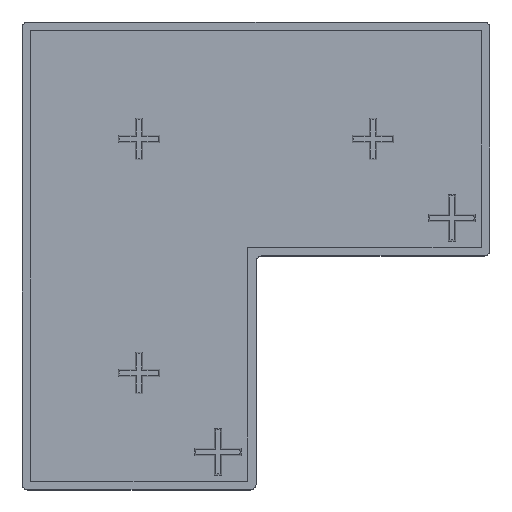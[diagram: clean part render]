
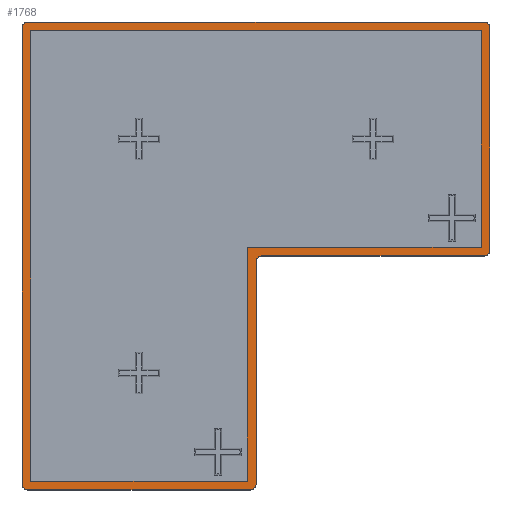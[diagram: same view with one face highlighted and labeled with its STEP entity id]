
A CAD part, top view. The second image highlights one B-rep face of the part: STEP entity #1768.
In plain terms, the highlighted planar face has unit normal (0, 0, 1).
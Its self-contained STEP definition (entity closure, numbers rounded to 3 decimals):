
#7 = VECTOR ( 'NONE', #2127, 1000. ) ;
#18 = LINE ( 'NONE', #3089, #3142 ) ;
#22 = CARTESIAN_POINT ( 'NONE',  ( -1.5, -38.5, 5. ) ) ;
#88 = VERTEX_POINT ( 'NONE', #2703 ) ;
#108 = VECTOR ( 'NONE', #283, 1000. ) ;
#112 = CARTESIAN_POINT ( 'NONE',  ( -40., -39., 5. ) ) ;
#158 = CARTESIAN_POINT ( 'NONE',  ( 40., 1., 5. ) ) ;
#195 = EDGE_LOOP ( 'NONE', ( #574, #2128, #451, #1150, #741, #2315 ) ) ;
#201 = LINE ( 'NONE', #300, #7 ) ;
#223 = CIRCLE ( 'NONE', #1837, 1. ) ;
#265 = LINE ( 'NONE', #750, #1383 ) ;
#283 = DIRECTION ( 'NONE',  ( 0., 1., 0. ) ) ;
#300 = CARTESIAN_POINT ( 'NONE',  ( -40., 40., 5. ) ) ;
#305 = VECTOR ( 'NONE', #3000, 1000. ) ;
#307 = EDGE_CURVE ( 'NONE', #2298, #88, #2701, .T. ) ;
#318 = CARTESIAN_POINT ( 'NONE',  ( 1., 0., 5. ) ) ;
#332 = VERTEX_POINT ( 'NONE', #371 ) ;
#334 = VECTOR ( 'NONE', #1570, 1000. ) ;
#352 = CARTESIAN_POINT ( 'NONE',  ( 40., 39., 5. ) ) ;
#371 = CARTESIAN_POINT ( 'NONE',  ( 0., -39., 5. ) ) ;
#379 = EDGE_CURVE ( 'NONE', #948, #2298, #450, .T. ) ;
#380 = LINE ( 'NONE', #3131, #334 ) ;
#385 = CARTESIAN_POINT ( 'NONE',  ( -1.5, 1.5, 5. ) ) ;
#410 = VERTEX_POINT ( 'NONE', #2237 ) ;
#413 = EDGE_CURVE ( 'NONE', #2990, #1325, #1750, .T. ) ;
#417 = DIRECTION ( 'NONE',  ( 0., 1., 0. ) ) ;
#450 = LINE ( 'NONE', #2256, #1922 ) ;
#451 = ORIENTED_EDGE ( 'NONE', *, *, #1501, .F. ) ;
#513 = VECTOR ( 'NONE', #1728, 1000. ) ;
#574 = ORIENTED_EDGE ( 'NONE', *, *, #2524, .F. ) ;
#578 = ORIENTED_EDGE ( 'NONE', *, *, #1237, .T. ) ;
#639 = DIRECTION ( 'NONE',  ( 0., 0., -1. ) ) ;
#703 = VECTOR ( 'NONE', #3193, 1000. ) ;
#712 = CIRCLE ( 'NONE', #3237, 1. ) ;
#741 = ORIENTED_EDGE ( 'NONE', *, *, #1215, .F. ) ;
#744 = ORIENTED_EDGE ( 'NONE', *, *, #1991, .T. ) ;
#750 = CARTESIAN_POINT ( 'NONE',  ( -38.5, -38.5, 5. ) ) ;
#771 = CARTESIAN_POINT ( 'NONE',  ( -39., -39., 5. ) ) ;
#804 = EDGE_CURVE ( 'NONE', #410, #1507, #2430, .T. ) ;
#817 = ORIENTED_EDGE ( 'NONE', *, *, #913, .F. ) ;
#831 = VERTEX_POINT ( 'NONE', #887 ) ;
#859 = DIRECTION ( 'NONE',  ( 0., 1., 0. ) ) ;
#875 = CARTESIAN_POINT ( 'NONE',  ( -40., 39., 5. ) ) ;
#886 = AXIS2_PLACEMENT_3D ( 'NONE', #2848, #1297, #3104 ) ;
#887 = CARTESIAN_POINT ( 'NONE',  ( -38.5, -38.5, 5. ) ) ;
#913 = EDGE_CURVE ( 'NONE', #3227, #332, #3260, .T. ) ;
#937 = DIRECTION ( 'NONE',  ( 0., 0., 1. ) ) ;
#948 = VERTEX_POINT ( 'NONE', #158 ) ;
#974 = CARTESIAN_POINT ( 'NONE',  ( -38.5, 38.5, 5. ) ) ;
#995 = VECTOR ( 'NONE', #1128, 1000. ) ;
#1011 = EDGE_CURVE ( 'NONE', #3270, #831, #3075, .T. ) ;
#1099 = ORIENTED_EDGE ( 'NONE', *, *, #379, .T. ) ;
#1106 = CARTESIAN_POINT ( 'NONE',  ( 0., -1., 5. ) ) ;
#1128 = DIRECTION ( 'NONE',  ( -1., 0., 0. ) ) ;
#1133 = LINE ( 'NONE', #22, #108 ) ;
#1134 = CARTESIAN_POINT ( 'NONE',  ( -40., -40., 5. ) ) ;
#1140 = ORIENTED_EDGE ( 'NONE', *, *, #3297, .T. ) ;
#1148 = EDGE_CURVE ( 'NONE', #1801, #1952, #712, .T. ) ;
#1150 = ORIENTED_EDGE ( 'NONE', *, *, #2280, .F. ) ;
#1180 = CARTESIAN_POINT ( 'NONE',  ( 0., -40., 5. ) ) ;
#1215 = EDGE_CURVE ( 'NONE', #1705, #2336, #380, .T. ) ;
#1237 = EDGE_CURVE ( 'NONE', #88, #1801, #201, .T. ) ;
#1251 = ORIENTED_EDGE ( 'NONE', *, *, #2244, .T. ) ;
#1276 = DIRECTION ( 'NONE',  ( 1., 0., 0. ) ) ;
#1292 = ORIENTED_EDGE ( 'NONE', *, *, #1148, .T. ) ;
#1296 = DIRECTION ( 'NONE',  ( 0., 0., 1. ) ) ;
#1297 = DIRECTION ( 'NONE',  ( 0., 0., 1. ) ) ;
#1300 = EDGE_CURVE ( 'NONE', #1952, #1439, #1891, .T. ) ;
#1307 = ORIENTED_EDGE ( 'NONE', *, *, #307, .T. ) ;
#1325 = VERTEX_POINT ( 'NONE', #318 ) ;
#1367 = CARTESIAN_POINT ( 'NONE',  ( -40., -40., 5. ) ) ;
#1380 = CIRCLE ( 'NONE', #1509, 1. ) ;
#1383 = VECTOR ( 'NONE', #1276, 1000. ) ;
#1387 = ORIENTED_EDGE ( 'NONE', *, *, #804, .T. ) ;
#1435 = AXIS2_PLACEMENT_3D ( 'NONE', #1462, #1604, #2510 ) ;
#1439 = VERTEX_POINT ( 'NONE', #112 ) ;
#1462 = CARTESIAN_POINT ( 'NONE',  ( -1., -39., 5. ) ) ;
#1466 = PLANE ( 'NONE',  #3118 ) ;
#1500 = ORIENTED_EDGE ( 'NONE', *, *, #413, .F. ) ;
#1501 = EDGE_CURVE ( 'NONE', #2816, #3270, #18, .T. ) ;
#1507 = VERTEX_POINT ( 'NONE', #2404 ) ;
#1509 = AXIS2_PLACEMENT_3D ( 'NONE', #2215, #639, #2477 ) ;
#1514 = CARTESIAN_POINT ( 'NONE',  ( 39., 0., 5. ) ) ;
#1528 = CIRCLE ( 'NONE', #1435, 1. ) ;
#1570 = DIRECTION ( 'NONE',  ( 1., 0., 0. ) ) ;
#1601 = DIRECTION ( 'NONE',  ( 0., -1., 0. ) ) ;
#1604 = DIRECTION ( 'NONE',  ( 0., 0., 1. ) ) ;
#1667 = VECTOR ( 'NONE', #1601, 1000. ) ;
#1671 = DIRECTION ( 'NONE',  ( 0., 0., 1. ) ) ;
#1681 = CIRCLE ( 'NONE', #886, 1. ) ;
#1696 = ORIENTED_EDGE ( 'NONE', *, *, #3032, .T. ) ;
#1705 = VERTEX_POINT ( 'NONE', #385 ) ;
#1728 = DIRECTION ( 'NONE',  ( 0., -1., 0. ) ) ;
#1749 = FACE_BOUND ( 'NONE', #195, .T. ) ;
#1750 = LINE ( 'NONE', #2755, #995 ) ;
#1768 = ADVANCED_FACE ( 'NONE', ( #1749, #2661 ), #1466, .F. ) ;
#1801 = VERTEX_POINT ( 'NONE', #2895 ) ;
#1837 = AXIS2_PLACEMENT_3D ( 'NONE', #771, #937, #2877 ) ;
#1844 = EDGE_LOOP ( 'NONE', ( #1500, #1696, #1099, #1307, #578, #1292, #1873, #744, #1387, #1251, #817, #1140 ) ) ;
#1873 = ORIENTED_EDGE ( 'NONE', *, *, #1300, .T. ) ;
#1891 = LINE ( 'NONE', #1367, #1667 ) ;
#1922 = VECTOR ( 'NONE', #417, 1000. ) ;
#1952 = VERTEX_POINT ( 'NONE', #875 ) ;
#1982 = VECTOR ( 'NONE', #859, 1000. ) ;
#1986 = LINE ( 'NONE', #2435, #1982 ) ;
#1991 = EDGE_CURVE ( 'NONE', #1439, #410, #223, .T. ) ;
#2100 = CARTESIAN_POINT ( 'NONE',  ( -1.5, -38.5, 5. ) ) ;
#2127 = DIRECTION ( 'NONE',  ( -1., 0., 0. ) ) ;
#2128 = ORIENTED_EDGE ( 'NONE', *, *, #1011, .F. ) ;
#2215 = CARTESIAN_POINT ( 'NONE',  ( 1., -1., 5. ) ) ;
#2237 = CARTESIAN_POINT ( 'NONE',  ( -39., -40., 5. ) ) ;
#2244 = EDGE_CURVE ( 'NONE', #1507, #332, #1528, .T. ) ;
#2251 = CARTESIAN_POINT ( 'NONE',  ( 38.5, 38.5, 5. ) ) ;
#2256 = CARTESIAN_POINT ( 'NONE',  ( 40., -40., 5. ) ) ;
#2280 = EDGE_CURVE ( 'NONE', #2336, #2816, #1986, .T. ) ;
#2298 = VERTEX_POINT ( 'NONE', #352 ) ;
#2315 = ORIENTED_EDGE ( 'NONE', *, *, #3121, .F. ) ;
#2336 = VERTEX_POINT ( 'NONE', #3157 ) ;
#2404 = CARTESIAN_POINT ( 'NONE',  ( -1., -40., 5. ) ) ;
#2428 = AXIS2_PLACEMENT_3D ( 'NONE', #3218, #1671, #2981 ) ;
#2430 = LINE ( 'NONE', #1134, #703 ) ;
#2435 = CARTESIAN_POINT ( 'NONE',  ( 38.5, 1.5, 5. ) ) ;
#2477 = DIRECTION ( 'NONE',  ( -1., 0., 0. ) ) ;
#2483 = CARTESIAN_POINT ( 'NONE',  ( 0., 0., 5. ) ) ;
#2510 = DIRECTION ( 'NONE',  ( -1., 0., 0. ) ) ;
#2524 = EDGE_CURVE ( 'NONE', #831, #2596, #265, .T. ) ;
#2596 = VERTEX_POINT ( 'NONE', #2100 ) ;
#2661 = FACE_OUTER_BOUND ( 'NONE', #1844, .T. ) ;
#2701 = CIRCLE ( 'NONE', #2428, 1. ) ;
#2703 = CARTESIAN_POINT ( 'NONE',  ( 39., 40., 5. ) ) ;
#2755 = CARTESIAN_POINT ( 'NONE',  ( 40., 0., 5. ) ) ;
#2816 = VERTEX_POINT ( 'NONE', #2251 ) ;
#2847 = CARTESIAN_POINT ( 'NONE',  ( -39., 39., 5. ) ) ;
#2848 = CARTESIAN_POINT ( 'NONE',  ( 39., 1., 5. ) ) ;
#2877 = DIRECTION ( 'NONE',  ( -1., 0., 0. ) ) ;
#2895 = CARTESIAN_POINT ( 'NONE',  ( -39., 40., 5. ) ) ;
#2981 = DIRECTION ( 'NONE',  ( -1., 0., 0. ) ) ;
#2990 = VERTEX_POINT ( 'NONE', #1514 ) ;
#3000 = DIRECTION ( 'NONE',  ( 0., -1., 0. ) ) ;
#3032 = EDGE_CURVE ( 'NONE', #2990, #948, #1681, .T. ) ;
#3075 = LINE ( 'NONE', #974, #513 ) ;
#3081 = DIRECTION ( 'NONE',  ( -1., 0., 0. ) ) ;
#3089 = CARTESIAN_POINT ( 'NONE',  ( 38.5, 38.5, 5. ) ) ;
#3103 = DIRECTION ( 'NONE',  ( -1., 0., 0. ) ) ;
#3104 = DIRECTION ( 'NONE',  ( -1., 0., 0. ) ) ;
#3118 = AXIS2_PLACEMENT_3D ( 'NONE', #2483, #3312, #3081 ) ;
#3121 = EDGE_CURVE ( 'NONE', #2596, #1705, #1133, .T. ) ;
#3131 = CARTESIAN_POINT ( 'NONE',  ( -1.5, 1.5, 5. ) ) ;
#3142 = VECTOR ( 'NONE', #3325, 1000. ) ;
#3157 = CARTESIAN_POINT ( 'NONE',  ( 38.5, 1.5, 5. ) ) ;
#3189 = CARTESIAN_POINT ( 'NONE',  ( -38.5, 38.5, 5. ) ) ;
#3193 = DIRECTION ( 'NONE',  ( 1., 0., 0. ) ) ;
#3218 = CARTESIAN_POINT ( 'NONE',  ( 39., 39., 5. ) ) ;
#3227 = VERTEX_POINT ( 'NONE', #1106 ) ;
#3237 = AXIS2_PLACEMENT_3D ( 'NONE', #2847, #1296, #3103 ) ;
#3260 = LINE ( 'NONE', #1180, #305 ) ;
#3270 = VERTEX_POINT ( 'NONE', #3189 ) ;
#3297 = EDGE_CURVE ( 'NONE', #3227, #1325, #1380, .T. ) ;
#3312 = DIRECTION ( 'NONE',  ( 0., 0., -1. ) ) ;
#3325 = DIRECTION ( 'NONE',  ( -1., 0., 0. ) ) ;
